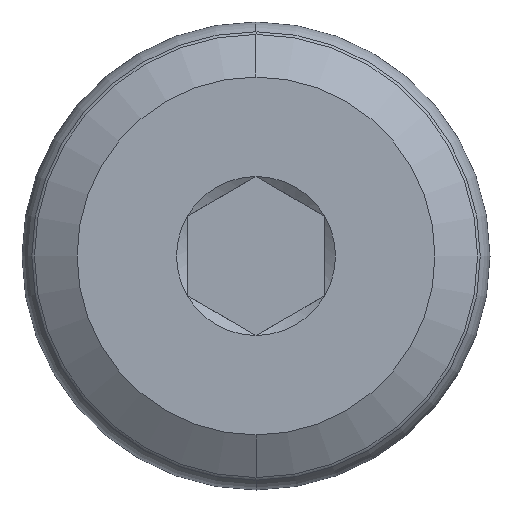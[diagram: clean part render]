
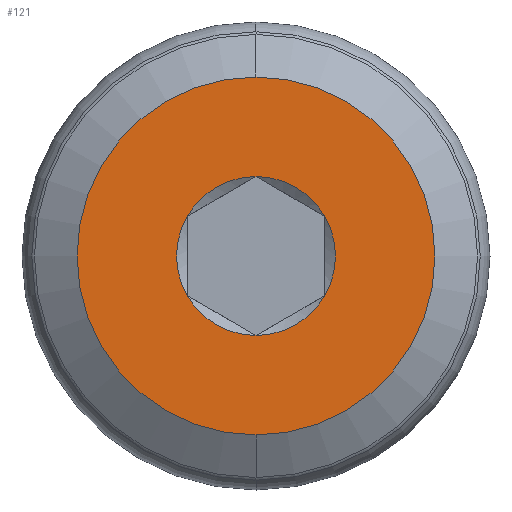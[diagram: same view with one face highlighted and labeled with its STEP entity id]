
A CAD part, left-side view. The second image highlights one B-rep face of the part: STEP entity #121.
In plain terms, the highlighted planar face has unit normal (-1, 0, 0).
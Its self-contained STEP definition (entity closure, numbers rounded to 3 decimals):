
#8 = DIRECTION ( 'NONE',  ( 1., 0., 0. ) ) ;
#24 = DIRECTION ( 'NONE',  ( 0., 0., -1. ) ) ;
#53 = EDGE_CURVE ( 'NONE', #131, #684, #112, .T. ) ;
#70 = CARTESIAN_POINT ( 'NONE',  ( 0., 0., 0. ) ) ;
#71 = CARTESIAN_POINT ( 'NONE',  ( 0., 0., 0. ) ) ;
#78 = CARTESIAN_POINT ( 'NONE',  ( 0., 3.25, 0. ) ) ;
#80 = CARTESIAN_POINT ( 'NONE',  ( 0., 0., 0. ) ) ;
#85 = ORIENTED_EDGE ( 'NONE', *, *, #53, .T. ) ;
#86 = CIRCLE ( 'NONE', #492, 3.25 ) ;
#111 = CARTESIAN_POINT ( 'NONE',  ( 0., 0., -3.25 ) ) ;
#112 = CIRCLE ( 'NONE', #687, 1.443 ) ;
#114 = AXIS2_PLACEMENT_3D ( 'NONE', #71, #250, #253 ) ;
#119 = CARTESIAN_POINT ( 'NONE',  ( 0., 0., 0. ) ) ;
#120 = CARTESIAN_POINT ( 'NONE',  ( 0., 1.25, -0.722 ) ) ;
#121 = ADVANCED_FACE ( 'NONE', ( #744, #627 ), #367, .T. ) ;
#122 = DIRECTION ( 'NONE',  ( 0., 0., 1. ) ) ;
#123 = CIRCLE ( 'NONE', #637, 1.443 ) ;
#131 = VERTEX_POINT ( 'NONE', #433 ) ;
#136 = AXIS2_PLACEMENT_3D ( 'NONE', #78, #488, #122 ) ;
#137 = EDGE_CURVE ( 'NONE', #287, #131, #767, .T. ) ;
#145 = DIRECTION ( 'NONE',  ( 0., 0., -1. ) ) ;
#148 = CARTESIAN_POINT ( 'NONE',  ( 0., 1.25, 0.722 ) ) ;
#159 = EDGE_CURVE ( 'NONE', #394, #198, #86, .T. ) ;
#166 = VERTEX_POINT ( 'NONE', #500 ) ;
#174 = ORIENTED_EDGE ( 'NONE', *, *, #564, .T. ) ;
#198 = VERTEX_POINT ( 'NONE', #263 ) ;
#226 = EDGE_CURVE ( 'NONE', #198, #394, #281, .T. ) ;
#230 = AXIS2_PLACEMENT_3D ( 'NONE', #521, #454, #386 ) ;
#250 = DIRECTION ( 'NONE',  ( 1., 0., 0. ) ) ;
#253 = DIRECTION ( 'NONE',  ( 0., 0., -1. ) ) ;
#260 = DIRECTION ( 'NONE',  ( 0., 0., -1. ) ) ;
#261 = EDGE_LOOP ( 'NONE', ( #758, #566 ) ) ;
#263 = CARTESIAN_POINT ( 'NONE',  ( 0., 0., 3.25 ) ) ;
#265 = CARTESIAN_POINT ( 'NONE',  ( 0., 0., 0. ) ) ;
#281 = CIRCLE ( 'NONE', #230, 3.25 ) ;
#287 = VERTEX_POINT ( 'NONE', #321 ) ;
#293 = CARTESIAN_POINT ( 'NONE',  ( 0., 0., 0. ) ) ;
#300 = CARTESIAN_POINT ( 'NONE',  ( 0., 0., 0. ) ) ;
#319 = DIRECTION ( 'NONE',  ( 1., 0., 0. ) ) ;
#321 = CARTESIAN_POINT ( 'NONE',  ( 0., -1.25, 0.722 ) ) ;
#338 = EDGE_CURVE ( 'NONE', #684, #670, #123, .T. ) ;
#340 = DIRECTION ( 'NONE',  ( 1., 0., 0. ) ) ;
#359 = EDGE_CURVE ( 'NONE', #765, #166, #626, .T. ) ;
#367 = PLANE ( 'NONE',  #136 ) ;
#386 = DIRECTION ( 'NONE',  ( 0., 0., -1. ) ) ;
#394 = VERTEX_POINT ( 'NONE', #111 ) ;
#413 = DIRECTION ( 'NONE',  ( 0., 0., -1. ) ) ;
#433 = CARTESIAN_POINT ( 'NONE',  ( 0., -1.25, -0.722 ) ) ;
#454 = DIRECTION ( 'NONE',  ( 1., 0., 0. ) ) ;
#456 = AXIS2_PLACEMENT_3D ( 'NONE', #119, #8, #616 ) ;
#473 = DIRECTION ( 'NONE',  ( 0., 0., -1. ) ) ;
#488 = DIRECTION ( 'NONE',  ( -1., 0., 0. ) ) ;
#492 = AXIS2_PLACEMENT_3D ( 'NONE', #70, #319, #260 ) ;
#500 = CARTESIAN_POINT ( 'NONE',  ( 0., 0., 1.443 ) ) ;
#502 = ORIENTED_EDGE ( 'NONE', *, *, #763, .T. ) ;
#521 = CARTESIAN_POINT ( 'NONE',  ( 0., 0., 0. ) ) ;
#529 = ORIENTED_EDGE ( 'NONE', *, *, #359, .T. ) ;
#536 = DIRECTION ( 'NONE',  ( 1., 0., 0. ) ) ;
#564 = EDGE_CURVE ( 'NONE', #670, #765, #715, .T. ) ;
#566 = ORIENTED_EDGE ( 'NONE', *, *, #226, .F. ) ;
#580 = DIRECTION ( 'NONE',  ( 1., 0., 0. ) ) ;
#590 = CIRCLE ( 'NONE', #676, 1.443 ) ;
#603 = AXIS2_PLACEMENT_3D ( 'NONE', #300, #653, #413 ) ;
#607 = ORIENTED_EDGE ( 'NONE', *, *, #137, .T. ) ;
#616 = DIRECTION ( 'NONE',  ( 0., 0., -1. ) ) ;
#626 = CIRCLE ( 'NONE', #603, 1.443 ) ;
#627 = FACE_OUTER_BOUND ( 'NONE', #261, .T. ) ;
#635 = EDGE_LOOP ( 'NONE', ( #529, #502, #607, #85, #680, #174 ) ) ;
#637 = AXIS2_PLACEMENT_3D ( 'NONE', #80, #340, #24 ) ;
#648 = CARTESIAN_POINT ( 'NONE',  ( 0., 0., -1.443 ) ) ;
#653 = DIRECTION ( 'NONE',  ( 1., 0., 0. ) ) ;
#670 = VERTEX_POINT ( 'NONE', #120 ) ;
#676 = AXIS2_PLACEMENT_3D ( 'NONE', #265, #580, #145 ) ;
#680 = ORIENTED_EDGE ( 'NONE', *, *, #338, .T. ) ;
#684 = VERTEX_POINT ( 'NONE', #648 ) ;
#687 = AXIS2_PLACEMENT_3D ( 'NONE', #293, #536, #473 ) ;
#715 = CIRCLE ( 'NONE', #114, 1.443 ) ;
#744 = FACE_BOUND ( 'NONE', #635, .T. ) ;
#758 = ORIENTED_EDGE ( 'NONE', *, *, #159, .F. ) ;
#763 = EDGE_CURVE ( 'NONE', #166, #287, #590, .T. ) ;
#765 = VERTEX_POINT ( 'NONE', #148 ) ;
#767 = CIRCLE ( 'NONE', #456, 1.443 ) ;
